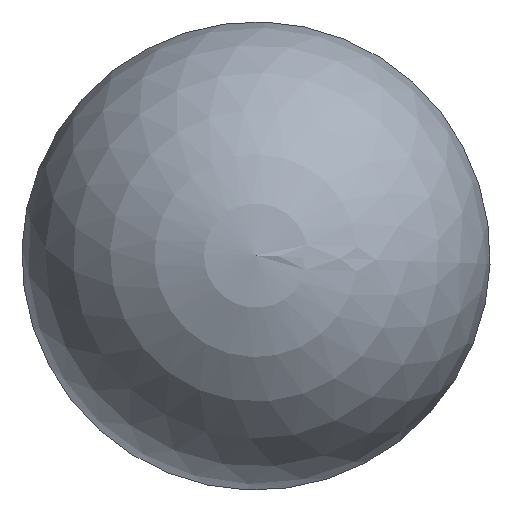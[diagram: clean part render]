
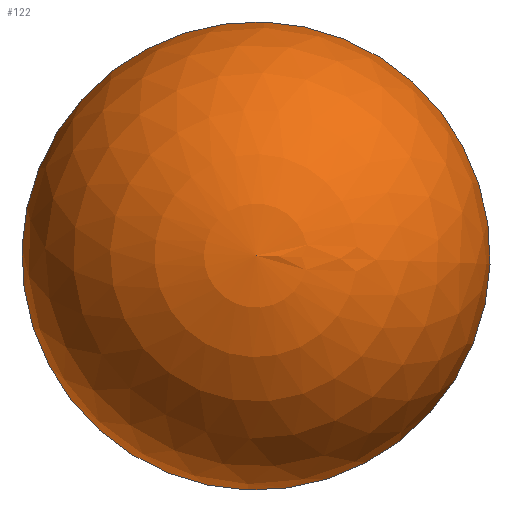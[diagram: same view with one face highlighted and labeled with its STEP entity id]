
A CAD part, top view. The second image highlights one B-rep face of the part: STEP entity #122.
In plain terms, the highlighted spherical face has radius 12.5 mm.
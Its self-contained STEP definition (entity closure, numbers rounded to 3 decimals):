
#24 = AXIS2_PLACEMENT_3D ( 'NONE', #445, #195, #486 ) ;
#43 = CARTESIAN_POINT ( 'NONE',  ( 0., 0., 211.5 ) ) ;
#45 = DIRECTION ( 'NONE',  ( 0.999, -0.035, 0. ) ) ;
#48 = CIRCLE ( 'NONE', #130, 12.5 ) ;
#100 = CARTESIAN_POINT ( 'NONE',  ( 0., 0., 211.5 ) ) ;
#122 = ADVANCED_FACE ( 'NONE', ( #190 ), #290, .T. ) ;
#130 = AXIS2_PLACEMENT_3D ( 'NONE', #100, #164, #210 ) ;
#164 = DIRECTION ( 'NONE',  ( 0., 0., -1. ) ) ;
#171 = CARTESIAN_POINT ( 'NONE',  ( 0.436, 12.492, 211.5 ) ) ;
#179 = AXIS2_PLACEMENT_3D ( 'NONE', #43, #595, #45 ) ;
#188 = CARTESIAN_POINT ( 'NONE',  ( -0.436, -12.492, 211.5 ) ) ;
#190 = FACE_OUTER_BOUND ( 'NONE', #360, .T. ) ;
#195 = DIRECTION ( 'NONE',  ( 0., 0., 1. ) ) ;
#210 = DIRECTION ( 'NONE',  ( -1., 0., 0. ) ) ;
#241 = VERTEX_POINT ( 'NONE', #171 ) ;
#285 = ORIENTED_EDGE ( 'NONE', *, *, #385, .T. ) ;
#290 = SPHERICAL_SURFACE ( 'NONE', #179, 12.5 ) ;
#360 = EDGE_LOOP ( 'NONE', ( #561, #285 ) ) ;
#381 = VERTEX_POINT ( 'NONE', #188 ) ;
#385 = EDGE_CURVE ( 'NONE', #241, #381, #582, .T. ) ;
#445 = CARTESIAN_POINT ( 'NONE',  ( 0., 0., 211.5 ) ) ;
#486 = DIRECTION ( 'NONE',  ( 1., 0., 0. ) ) ;
#561 = ORIENTED_EDGE ( 'NONE', *, *, #634, .F. ) ;
#582 = CIRCLE ( 'NONE', #24, 12.5 ) ;
#595 = DIRECTION ( 'NONE',  ( 0., 0., 1. ) ) ;
#634 = EDGE_CURVE ( 'NONE', #241, #381, #48, .T. ) ;
